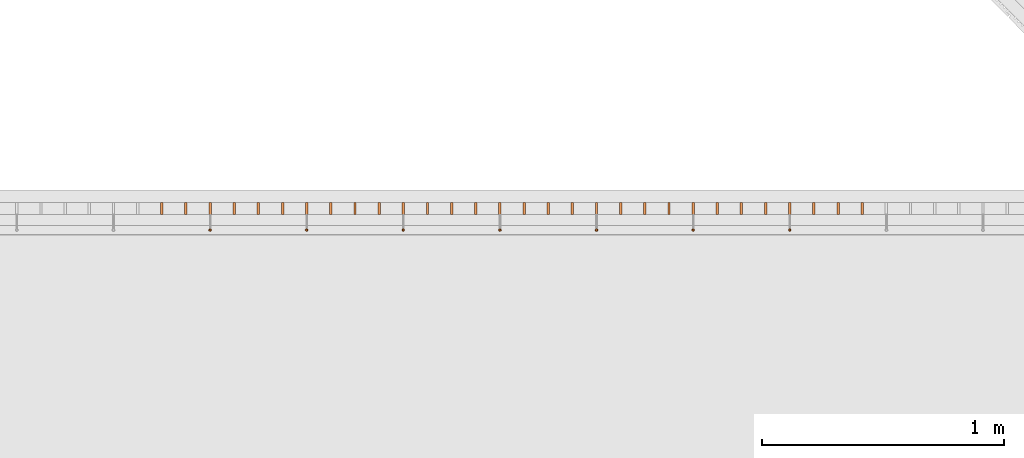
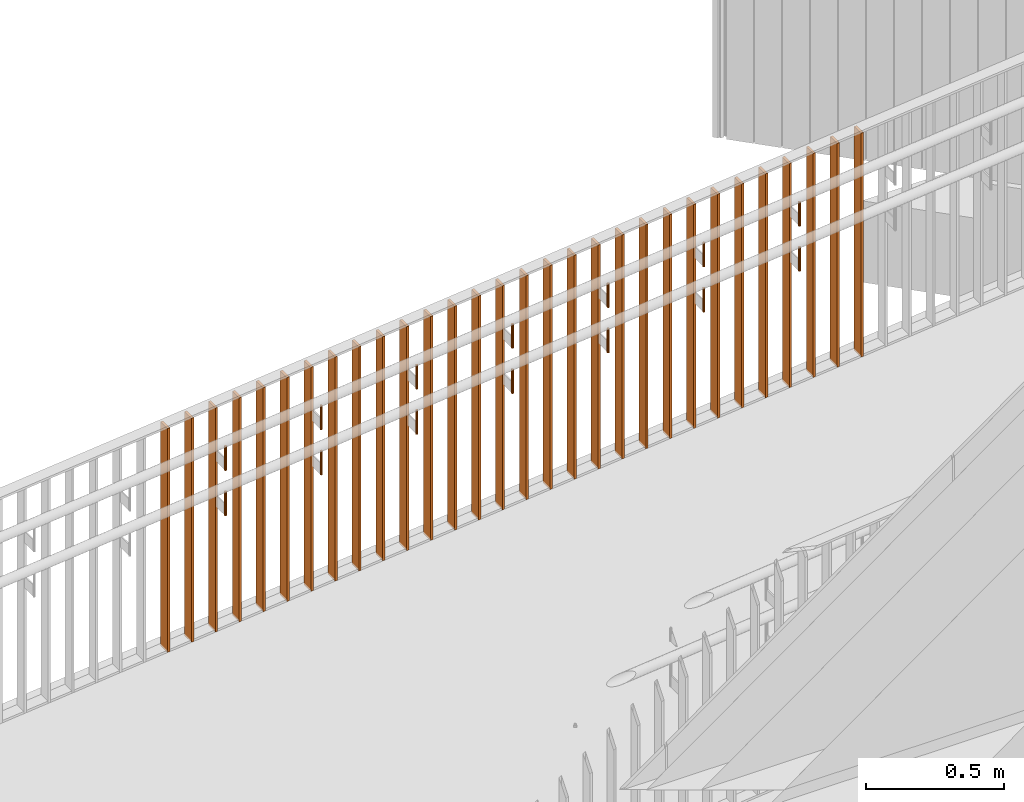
# One storey, part 372 of 418: 44 proxies, 1 element without a shape of its own.
"""IFC2X3 building model written with IfcOpenShell, lengths in millimetres."""

from ifc_helpers import new_model, entity, si_unit, converted_unit, derived_unit, money_unit, direction, frame, origin_with_axes, origin_2d_with_axis, place, context, subcontext, project, spatial, circle, extrude, faceted_brep, source, transform, mapped, material, type_object, element, aggregate, save


model = new_model("IFC2X3")

# Units and contexts
model_context = context("Model", 3, precision=0.01, world=origin_with_axes(), true_north=direction((0.0, 1.0)))
body_context = subcontext(model_context, "Body", "Model", "MODEL_VIEW")
ifc_project = project(units=[si_unit("LENGTHUNIT", "METRE", prefix="MILLI"), si_unit("AREAUNIT", "SQUARE_METRE"), si_unit("VOLUMEUNIT", "CUBIC_METRE"), converted_unit("PLANEANGLEUNIT", "DEGREE", entity("IfcPlaneAngleMeasure", 0.0174532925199), si_unit("PLANEANGLEUNIT", "RADIAN"), dimensions=[0, 0, 0, 0, 0, 0, 0]), si_unit("SOLIDANGLEUNIT", "STERADIAN"), money_unit("EUR"), converted_unit("TIMEUNIT", "Year", entity("IfcTimeMeasure", 31556926.0), si_unit("TIMEUNIT", "SECOND"), dimensions=[0, 0, 1, 0, 0, 0, 0]), si_unit("MASSUNIT", "GRAM", prefix="KILO"), si_unit("THERMODYNAMICTEMPERATUREUNIT", "DEGREE_CELSIUS"), si_unit("LUMINOUSINTENSITYUNIT", "LUMEN"), si_unit("ENERGYUNIT", "JOULE", prefix="MEGA"), derived_unit("THERMALCONDUCTANCEUNIT", [(si_unit("POWERUNIT", "WATT"), 1), (si_unit("LENGTHUNIT", "METRE"), -1), (si_unit("THERMODYNAMICTEMPERATUREUNIT", "KELVIN"), -1)]), derived_unit("SPECIFICHEATCAPACITYUNIT", [(si_unit("ENERGYUNIT", "JOULE"), 1), (si_unit("MASSUNIT", "GRAM", prefix="KILO"), -1), (si_unit("THERMODYNAMICTEMPERATUREUNIT", "KELVIN"), -1)]), derived_unit("MASSDENSITYUNIT", [(si_unit("MASSUNIT", "GRAM", prefix="KILO"), 1), (si_unit("VOLUMEUNIT", "CUBIC_METRE"), -1)])], contexts=[model_context])

# Site, building, storey
site_placement = place(None, origin_with_axes())
site = spatial("IfcSite", under=ifc_project, at=site_placement, Name="Paldiski mnt 245/1, Tallinn, Harjumaa", CompositionType="COMPLEX")
building_placement = place(site_placement, origin_with_axes())
building = spatial("IfcBuilding", under=site, at=building_placement, Name="RKAS Hoone üldnimetus (kasutust iseloomustav) -> IFC Project Manager -> SOLIBRI", CompositionType="ELEMENT")
storey_placement = place(building_placement, origin_with_axes())
storey = spatial("IfcBuildingStorey", under=building, at=storey_placement, Name="Esimene korrus", CompositionType="ELEMENT", Elevation=0.0)

# Proxies
ifc_material_1 = material(Name="ET-07_Teras - Roostevaba")
building_element_proxy_type_1 = type_object("IfcBuildingElementProxyType", Name="ET-07_Teras - Roostevaba D10", PredefinedType="NOTDEFINED")
for number, where, z_axis, x_axis, name in (
    (1, (-57323.3394775, 38424.7311931, 343.943483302), (0.0, 0.0, 1.0), (0.0, 1.0, 0.0), "POST"),
    (2, (-56123.3394775, 38424.7311931, 263.943433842), (0.0, 0.0, 1.0), (0.0, 1.0, 0.0), "POST"),
    (3, (-56123.3394775, 38424.7311931, 463.943483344), (0.0, 0.0, 1.0), (0.0, 1.0, 0.0), "POST"),
    (4, (-57323.3394775, 38424.7311931, 143.9434338), (0.0, 0.0, 1.0), (0.0, 1.0, 0.0), "POST"),
    (5, (-56523.3901807, 38424.7311931, 423.938413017), (0.0, 0.0, 1.0), (0.0, 1.0, 0.0), "POST"),
    (6, (-56523.3901807, 38424.7311931, 223.938363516), (0.0, 0.0, 1.0), (0.0, 1.0, 0.0), "POST"),
    (7, (-56923.2887744, 38424.7311931, 383.948553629), (0.0, 0.0, 1.0), (0.0, 1.0, 0.0), "POST"),
    (8, (-56923.2887744, 38424.7311931, 183.948504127), (0.0, 0.0, 1.0), (0.0, 1.0, 0.0), "POST"),
    (9, (-54923.3394775, 38424.7311931, 583.943483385), (0.0, 0.0, 1.0), (0.0, 1.0, 0.0), "POST"),
    (10, (-54923.3394775, 38424.7311931, 383.943433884), (0.0, 0.0, 1.0), (0.0, 1.0, 0.0), "POST"),
    (11, (-55323.2887744, 38424.7311931, 543.948553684), (0.0, 0.0, 1.0), (0.0, 1.0, 0.0), "POST"),
    (12, (-55323.2887744, 38424.7311931, 343.948504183), (0.0, 0.0, 1.0), (0.0, 1.0, 0.0), "POST"),
    (13, (-55723.3394775, 38424.7311931, 503.943483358), (0.0, 0.0, 1.0), (0.0, 1.0, 0.0), "POST"),
    (14, (-55723.3394775, 38424.7311931, 303.943433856), (0.0, 0.0, 1.0), (0.0, 1.0, 0.0), "POST"),
):
    element("IfcBuildingElementProxy", number, at=place(storey_placement, frame(where, z_axis=z_axis, x_axis=x_axis)), inside=storey, type_object=building_element_proxy_type_1, material=ifc_material_1, Name=name, context=body_context, shape_type="SweptSolid", body=[
        extrude(circle(Radius=5.0, at=origin_2d_with_axis()), frame((0.0, 0.0, 0.0), z_axis=(0.0, 0.0, -1.0), x_axis=(-1.0, 0.0, 0.0)), (0.0, 0.0, -1.0), 106.0),
    ])

# Railing, proxies
railing_type = type_object("IfcRailingType", Name="Railing Type", PredefinedType="NOTDEFINED")
railing_placement = place(storey_placement, frame((-53022.826789, 38539.7311919, -669.703891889), z_axis=(0.0, 0.0, 1.0), x_axis=(-0.773149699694, -0.634223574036, 0.0)))
railing = element("IfcRailing", 15, at=railing_placement, inside=storey, type_object=railing_type, Name="Trepipiire", PredefinedType="NOTDEFINED")
ifc_material_2 = material(Name="RAL7016")
building_element_proxy_type_2 = type_object("IfcBuildingElementProxyType", Name="IfcBuildingElementProxy", PredefinedType="NOTDEFINED")
shared_shape = source(origin_with_axes(), body_context, "Body", "Brep", [
    faceted_brep([(25.0, 5.0, -0.500145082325), (-25.0, 5.0, -0.500145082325), (-25.0, 5.0, 989.499867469), (25.0, 5.0, 989.499867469), (25.0, -5.0, 0.500145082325), (-25.0, -5.0, 0.500145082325), (-25.0, -5.0, 990.500157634), (25.0, -5.0, 990.500157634)], [[[0, 1, 2, 3]], [[0, 4, 5, 1]], [[1, 5, 6, 2]], [[3, 2, 6, 7]], [[4, 0, 3, 7]], [[5, 4, 7, 6]]]),
])
proxy_1_placement = place(railing_placement, frame((1253.2522919, -995.721978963, 529.505532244), z_axis=(0.0, 0.0, 1.0), x_axis=(-0.773149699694, 0.634223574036, 0.0)))
proxy_1 = element("IfcBuildingElementProxy", 16, at=proxy_1_placement, type_object=building_element_proxy_type_2, material=ifc_material_2, Name="BALUSTER - 001", context=body_context, shape_type="MappedRepresentation", body=[
    mapped(shared_shape, transform((0.0, 0.0, 0.0), x_axis=(0.0, 1.0, 0.0), y_axis=(-1.0, 0.0, 0.0), z_axis=(0.0, 0.0, 1.0))),
])
proxy_2_placement = place(railing_placement, frame((1330.56726187, -1059.14433637, 519.502630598), z_axis=(0.0, 0.0, 1.0), x_axis=(-0.773149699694, 0.634223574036, 0.0)))
proxy_2 = element("IfcBuildingElementProxy", 17, at=proxy_2_placement, type_object=building_element_proxy_type_2, material=ifc_material_2, Name="BALUSTER - 001", context=body_context, shape_type="MappedRepresentation", body=[
    mapped(shared_shape, transform((0.0, 0.0, 0.0), x_axis=(0.0, 1.0, 0.0), y_axis=(-1.0, 0.0, 0.0), z_axis=(0.0, 0.0, 1.0))),
])
proxy_3_placement = place(railing_placement, frame((1407.88223184, -1122.56669377, 509.499728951), z_axis=(0.0, 0.0, 1.0), x_axis=(-0.773149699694, 0.634223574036, 0.0)))
proxy_3 = element("IfcBuildingElementProxy", 18, at=proxy_3_placement, type_object=building_element_proxy_type_2, material=ifc_material_2, Name="BALUSTER - 001", context=body_context, shape_type="MappedRepresentation", body=[
    mapped(shared_shape, transform((0.0, 0.0, 0.0), x_axis=(0.0, 1.0, 0.0), y_axis=(-1.0, 0.0, 0.0), z_axis=(0.0, 0.0, 1.0))),
])
proxy_4_placement = place(railing_placement, frame((1485.19720181, -1185.98905117, 499.496827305), z_axis=(0.0, 0.0, 1.0), x_axis=(-0.773149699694, 0.634223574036, 0.0)))
proxy_4 = element("IfcBuildingElementProxy", 19, at=proxy_4_placement, type_object=building_element_proxy_type_2, material=ifc_material_2, Name="BALUSTER - 001", context=body_context, shape_type="MappedRepresentation", body=[
    mapped(shared_shape, transform((0.0, 0.0, 0.0), x_axis=(0.0, 1.0, 0.0), y_axis=(-1.0, 0.0, 0.0), z_axis=(0.0, 0.0, 1.0))),
])
proxy_5_placement = place(railing_placement, frame((1562.51217178, -1249.41140858, 489.493925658), z_axis=(0.0, 0.0, 1.0), x_axis=(-0.773149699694, 0.634223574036, 0.0)))
proxy_5 = element("IfcBuildingElementProxy", 20, at=proxy_5_placement, type_object=building_element_proxy_type_2, material=ifc_material_2, Name="BALUSTER - 001", context=body_context, shape_type="MappedRepresentation", body=[
    mapped(shared_shape, transform((0.0, 0.0, 0.0), x_axis=(0.0, 1.0, 0.0), y_axis=(-1.0, 0.0, 0.0), z_axis=(0.0, 0.0, 1.0))),
])
proxy_6_placement = place(railing_placement, frame((1639.82714175, -1312.83376598, 479.491024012), z_axis=(0.0, 0.0, 1.0), x_axis=(-0.773149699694, 0.634223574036, 0.0)))
proxy_6 = element("IfcBuildingElementProxy", 21, at=proxy_6_placement, type_object=building_element_proxy_type_2, material=ifc_material_2, Name="BALUSTER - 001", context=body_context, shape_type="MappedRepresentation", body=[
    mapped(shared_shape, transform((0.0, 0.0, 0.0), x_axis=(0.0, 1.0, 0.0), y_axis=(-1.0, 0.0, 0.0), z_axis=(0.0, 0.0, 1.0))),
])
proxy_7_placement = place(railing_placement, frame((1717.14211172, -1376.25612338, 469.488122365), z_axis=(0.0, 0.0, 1.0), x_axis=(-0.773149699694, 0.634223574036, 0.0)))
proxy_7 = element("IfcBuildingElementProxy", 22, at=proxy_7_placement, type_object=building_element_proxy_type_2, material=ifc_material_2, Name="BALUSTER - 001", context=body_context, shape_type="MappedRepresentation", body=[
    mapped(shared_shape, transform((0.0, 0.0, 0.0), x_axis=(0.0, 1.0, 0.0), y_axis=(-1.0, 0.0, 0.0), z_axis=(0.0, 0.0, 1.0))),
])
proxy_8_placement = place(railing_placement, frame((1794.45708168, -1439.67848079, 459.485220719), z_axis=(0.0, 0.0, 1.0), x_axis=(-0.773149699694, 0.634223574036, 0.0)))
proxy_8 = element("IfcBuildingElementProxy", 23, at=proxy_8_placement, type_object=building_element_proxy_type_2, material=ifc_material_2, Name="BALUSTER - 001", context=body_context, shape_type="MappedRepresentation", body=[
    mapped(shared_shape, transform((0.0, 0.0, 0.0), x_axis=(0.0, 1.0, 0.0), y_axis=(-1.0, 0.0, 0.0), z_axis=(0.0, 0.0, 1.0))),
])
proxy_9_placement = place(railing_placement, frame((1871.77205165, -1503.10083819, 449.482319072), z_axis=(0.0, 0.0, 1.0), x_axis=(-0.773149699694, 0.634223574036, 0.0)))
proxy_9 = element("IfcBuildingElementProxy", 24, at=proxy_9_placement, type_object=building_element_proxy_type_2, material=ifc_material_2, Name="BALUSTER - 001", context=body_context, shape_type="MappedRepresentation", body=[
    mapped(shared_shape, transform((0.0, 0.0, 0.0), x_axis=(0.0, 1.0, 0.0), y_axis=(-1.0, 0.0, 0.0), z_axis=(0.0, 0.0, 1.0))),
])
proxy_10_placement = place(railing_placement, frame((1949.08702162, -1566.5231956, 439.479417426), z_axis=(0.0, 0.0, 1.0), x_axis=(-0.773149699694, 0.634223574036, 0.0)))
proxy_10 = element("IfcBuildingElementProxy", 25, at=proxy_10_placement, type_object=building_element_proxy_type_2, material=ifc_material_2, Name="BALUSTER - 001", context=body_context, shape_type="MappedRepresentation", body=[
    mapped(shared_shape, transform((0.0, 0.0, 0.0), x_axis=(0.0, 1.0, 0.0), y_axis=(-1.0, 0.0, 0.0), z_axis=(0.0, 0.0, 1.0))),
])
proxy_11_placement = place(railing_placement, frame((2026.40199159, -1629.945553, 429.476515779), z_axis=(0.0, 0.0, 1.0), x_axis=(-0.773149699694, 0.634223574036, 0.0)))
proxy_11 = element("IfcBuildingElementProxy", 26, at=proxy_11_placement, type_object=building_element_proxy_type_2, material=ifc_material_2, Name="BALUSTER - 001", context=body_context, shape_type="MappedRepresentation", body=[
    mapped(shared_shape, transform((0.0, 0.0, 0.0), x_axis=(0.0, 1.0, 0.0), y_axis=(-1.0, 0.0, 0.0), z_axis=(0.0, 0.0, 1.0))),
])
proxy_12_placement = place(railing_placement, frame((2103.71696156, -1693.3679104, 419.473614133), z_axis=(0.0, 0.0, 1.0), x_axis=(-0.773149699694, 0.634223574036, 0.0)))
proxy_12 = element("IfcBuildingElementProxy", 27, at=proxy_12_placement, type_object=building_element_proxy_type_2, material=ifc_material_2, Name="BALUSTER - 001", context=body_context, shape_type="MappedRepresentation", body=[
    mapped(shared_shape, transform((0.0, 0.0, 0.0), x_axis=(0.0, 1.0, 0.0), y_axis=(-1.0, 0.0, 0.0), z_axis=(0.0, 0.0, 1.0))),
])
proxy_13_placement = place(railing_placement, frame((2181.03193153, -1756.79026781, 409.470712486), z_axis=(0.0, 0.0, 1.0), x_axis=(-0.773149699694, 0.634223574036, 0.0)))
proxy_13 = element("IfcBuildingElementProxy", 28, at=proxy_13_placement, type_object=building_element_proxy_type_2, material=ifc_material_2, Name="BALUSTER - 001", context=body_context, shape_type="MappedRepresentation", body=[
    mapped(shared_shape, transform((0.0, 0.0, 0.0), x_axis=(0.0, 1.0, 0.0), y_axis=(-1.0, 0.0, 0.0), z_axis=(0.0, 0.0, 1.0))),
])
proxy_14_placement = place(railing_placement, frame((2258.3469015, -1820.21262521, 399.46781084), z_axis=(0.0, 0.0, 1.0), x_axis=(-0.773149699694, 0.634223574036, 0.0)))
proxy_14 = element("IfcBuildingElementProxy", 29, at=proxy_14_placement, type_object=building_element_proxy_type_2, material=ifc_material_2, Name="BALUSTER - 001", context=body_context, shape_type="MappedRepresentation", body=[
    mapped(shared_shape, transform((0.0, 0.0, 0.0), x_axis=(0.0, 1.0, 0.0), y_axis=(-1.0, 0.0, 0.0), z_axis=(0.0, 0.0, 1.0))),
])
proxy_15_placement = place(railing_placement, frame((2335.66187147, -1883.63498261, 389.464909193), z_axis=(0.0, 0.0, 1.0), x_axis=(-0.773149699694, 0.634223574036, 0.0)))
proxy_15 = element("IfcBuildingElementProxy", 30, at=proxy_15_placement, type_object=building_element_proxy_type_2, material=ifc_material_2, Name="BALUSTER - 001", context=body_context, shape_type="MappedRepresentation", body=[
    mapped(shared_shape, transform((0.0, 0.0, 0.0), x_axis=(0.0, 1.0, 0.0), y_axis=(-1.0, 0.0, 0.0), z_axis=(0.0, 0.0, 1.0))),
])
proxy_16_placement = place(railing_placement, frame((2412.97684144, -1947.05734002, 379.462007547), z_axis=(0.0, 0.0, 1.0), x_axis=(-0.773149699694, 0.634223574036, 0.0)))
proxy_16 = element("IfcBuildingElementProxy", 31, at=proxy_16_placement, type_object=building_element_proxy_type_2, material=ifc_material_2, Name="BALUSTER - 001", context=body_context, shape_type="MappedRepresentation", body=[
    mapped(shared_shape, transform((0.0, 0.0, 0.0), x_axis=(0.0, 1.0, 0.0), y_axis=(-1.0, 0.0, 0.0), z_axis=(0.0, 0.0, 1.0))),
])
proxy_17_placement = place(railing_placement, frame((2490.29181141, -2010.47969742, 369.4591059), z_axis=(0.0, 0.0, 1.0), x_axis=(-0.773149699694, 0.634223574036, 0.0)))
proxy_17 = element("IfcBuildingElementProxy", 32, at=proxy_17_placement, type_object=building_element_proxy_type_2, material=ifc_material_2, Name="BALUSTER - 001", context=body_context, shape_type="MappedRepresentation", body=[
    mapped(shared_shape, transform((0.0, 0.0, 0.0), x_axis=(0.0, 1.0, 0.0), y_axis=(-1.0, 0.0, 0.0), z_axis=(0.0, 0.0, 1.0))),
])
proxy_18_placement = place(railing_placement, frame((2567.60678138, -2073.90205482, 359.456204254), z_axis=(0.0, 0.0, 1.0), x_axis=(-0.773149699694, 0.634223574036, 0.0)))
proxy_18 = element("IfcBuildingElementProxy", 33, at=proxy_18_placement, type_object=building_element_proxy_type_2, material=ifc_material_2, Name="BALUSTER - 001", context=body_context, shape_type="MappedRepresentation", body=[
    mapped(shared_shape, transform((0.0, 0.0, 0.0), x_axis=(0.0, 1.0, 0.0), y_axis=(-1.0, 0.0, 0.0), z_axis=(0.0, 0.0, 1.0))),
])
proxy_19_placement = place(railing_placement, frame((2644.92175135, -2137.32441223, 349.453302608), z_axis=(0.0, 0.0, 1.0), x_axis=(-0.773149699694, 0.634223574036, 0.0)))
proxy_19 = element("IfcBuildingElementProxy", 34, at=proxy_19_placement, type_object=building_element_proxy_type_2, material=ifc_material_2, Name="BALUSTER - 001", context=body_context, shape_type="MappedRepresentation", body=[
    mapped(shared_shape, transform((0.0, 0.0, 0.0), x_axis=(0.0, 1.0, 0.0), y_axis=(-1.0, 0.0, 0.0), z_axis=(0.0, 0.0, 1.0))),
])
proxy_20_placement = place(railing_placement, frame((2722.23672132, -2200.74676963, 339.450400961), z_axis=(0.0, 0.0, 1.0), x_axis=(-0.773149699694, 0.634223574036, 0.0)))
proxy_20 = element("IfcBuildingElementProxy", 35, at=proxy_20_placement, type_object=building_element_proxy_type_2, material=ifc_material_2, Name="BALUSTER - 001", context=body_context, shape_type="MappedRepresentation", body=[
    mapped(shared_shape, transform((0.0, 0.0, 0.0), x_axis=(0.0, 1.0, 0.0), y_axis=(-1.0, 0.0, 0.0), z_axis=(0.0, 0.0, 1.0))),
])
proxy_21_placement = place(railing_placement, frame((2799.55169129, -2264.16912704, 329.447499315), z_axis=(0.0, 0.0, 1.0), x_axis=(-0.773149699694, 0.634223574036, 0.0)))
proxy_21 = element("IfcBuildingElementProxy", 36, at=proxy_21_placement, type_object=building_element_proxy_type_2, material=ifc_material_2, Name="BALUSTER - 001", context=body_context, shape_type="MappedRepresentation", body=[
    mapped(shared_shape, transform((0.0, 0.0, 0.0), x_axis=(0.0, 1.0, 0.0), y_axis=(-1.0, 0.0, 0.0), z_axis=(0.0, 0.0, 1.0))),
])
proxy_22_placement = place(railing_placement, frame((2876.86666126, -2327.59148444, 319.444597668), z_axis=(0.0, 0.0, 1.0), x_axis=(-0.773149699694, 0.634223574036, 0.0)))
proxy_22 = element("IfcBuildingElementProxy", 37, at=proxy_22_placement, type_object=building_element_proxy_type_2, material=ifc_material_2, Name="BALUSTER - 001", context=body_context, shape_type="MappedRepresentation", body=[
    mapped(shared_shape, transform((0.0, 0.0, 0.0), x_axis=(0.0, 1.0, 0.0), y_axis=(-1.0, 0.0, 0.0), z_axis=(0.0, 0.0, 1.0))),
])
proxy_23_placement = place(railing_placement, frame((2954.18163123, -2391.01384184, 309.441696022), z_axis=(0.0, 0.0, 1.0), x_axis=(-0.773149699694, 0.634223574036, 0.0)))
proxy_23 = element("IfcBuildingElementProxy", 38, at=proxy_23_placement, type_object=building_element_proxy_type_2, material=ifc_material_2, Name="BALUSTER - 001", context=body_context, shape_type="MappedRepresentation", body=[
    mapped(shared_shape, transform((0.0, 0.0, 0.0), x_axis=(0.0, 1.0, 0.0), y_axis=(-1.0, 0.0, 0.0), z_axis=(0.0, 0.0, 1.0))),
])
proxy_24_placement = place(railing_placement, frame((3031.4966012, -2454.43619925, 299.438794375), z_axis=(0.0, 0.0, 1.0), x_axis=(-0.773149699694, 0.634223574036, 0.0)))
proxy_24 = element("IfcBuildingElementProxy", 39, at=proxy_24_placement, type_object=building_element_proxy_type_2, material=ifc_material_2, Name="BALUSTER - 001", context=body_context, shape_type="MappedRepresentation", body=[
    mapped(shared_shape, transform((0.0, 0.0, 0.0), x_axis=(0.0, 1.0, 0.0), y_axis=(-1.0, 0.0, 0.0), z_axis=(0.0, 0.0, 1.0))),
])
proxy_25_placement = place(railing_placement, frame((3108.81157116, -2517.85855665, 289.435892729), z_axis=(0.0, 0.0, 1.0), x_axis=(-0.773149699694, 0.634223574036, 0.0)))
proxy_25 = element("IfcBuildingElementProxy", 40, at=proxy_25_placement, type_object=building_element_proxy_type_2, material=ifc_material_2, Name="BALUSTER - 001", context=body_context, shape_type="MappedRepresentation", body=[
    mapped(shared_shape, transform((0.0, 0.0, 0.0), x_axis=(0.0, 1.0, 0.0), y_axis=(-1.0, 0.0, 0.0), z_axis=(0.0, 0.0, 1.0))),
])
proxy_26_placement = place(railing_placement, frame((3186.12654113, -2581.28091405, 279.432991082), z_axis=(0.0, 0.0, 1.0), x_axis=(-0.773149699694, 0.634223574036, 0.0)))
proxy_26 = element("IfcBuildingElementProxy", 41, at=proxy_26_placement, type_object=building_element_proxy_type_2, material=ifc_material_2, Name="BALUSTER - 001", context=body_context, shape_type="MappedRepresentation", body=[
    mapped(shared_shape, transform((0.0, 0.0, 0.0), x_axis=(0.0, 1.0, 0.0), y_axis=(-1.0, 0.0, 0.0), z_axis=(0.0, 0.0, 1.0))),
])
proxy_27_placement = place(railing_placement, frame((3263.4415111, -2644.70327146, 269.430089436), z_axis=(0.0, 0.0, 1.0), x_axis=(-0.773149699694, 0.634223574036, 0.0)))
proxy_27 = element("IfcBuildingElementProxy", 42, at=proxy_27_placement, type_object=building_element_proxy_type_2, material=ifc_material_2, Name="BALUSTER - 001", context=body_context, shape_type="MappedRepresentation", body=[
    mapped(shared_shape, transform((0.0, 0.0, 0.0), x_axis=(0.0, 1.0, 0.0), y_axis=(-1.0, 0.0, 0.0), z_axis=(0.0, 0.0, 1.0))),
])
proxy_28_placement = place(railing_placement, frame((3340.75648107, -2708.12562886, 259.427187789), z_axis=(0.0, 0.0, 1.0), x_axis=(-0.773149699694, 0.634223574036, 0.0)))
proxy_28 = element("IfcBuildingElementProxy", 43, at=proxy_28_placement, type_object=building_element_proxy_type_2, material=ifc_material_2, Name="BALUSTER - 001", context=body_context, shape_type="MappedRepresentation", body=[
    mapped(shared_shape, transform((0.0, 0.0, 0.0), x_axis=(0.0, 1.0, 0.0), y_axis=(-1.0, 0.0, 0.0), z_axis=(0.0, 0.0, 1.0))),
])
proxy_29_placement = place(railing_placement, frame((3418.07145104, -2771.54798626, 249.424286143), z_axis=(0.0, 0.0, 1.0), x_axis=(-0.773149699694, 0.634223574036, 0.0)))
proxy_29 = element("IfcBuildingElementProxy", 44, at=proxy_29_placement, type_object=building_element_proxy_type_2, material=ifc_material_2, Name="BALUSTER - 001", context=body_context, shape_type="MappedRepresentation", body=[
    mapped(shared_shape, transform((0.0, 0.0, 0.0), x_axis=(0.0, 1.0, 0.0), y_axis=(-1.0, 0.0, 0.0), z_axis=(0.0, 0.0, 1.0))),
])
proxy_30_placement = place(railing_placement, frame((3495.38642101, -2834.97034367, 239.421384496), z_axis=(0.0, 0.0, 1.0), x_axis=(-0.773149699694, 0.634223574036, 0.0)))
proxy_30 = element("IfcBuildingElementProxy", 45, at=proxy_30_placement, type_object=building_element_proxy_type_2, material=ifc_material_2, Name="BALUSTER - 001", context=body_context, shape_type="MappedRepresentation", body=[
    mapped(shared_shape, transform((0.0, 0.0, 0.0), x_axis=(0.0, 1.0, 0.0), y_axis=(-1.0, 0.0, 0.0), z_axis=(0.0, 0.0, 1.0))),
])
aggregate(railing, [proxy_1, proxy_2, proxy_3, proxy_4, proxy_5, proxy_6, proxy_7, proxy_8, proxy_9, proxy_10, proxy_11, proxy_12, proxy_13, proxy_14, proxy_15, proxy_16, proxy_17, proxy_18, proxy_19, proxy_20, proxy_21, proxy_22, proxy_23, proxy_24, proxy_25, proxy_26, proxy_27, proxy_28, proxy_29, proxy_30])

save(model, "model.ifc")
